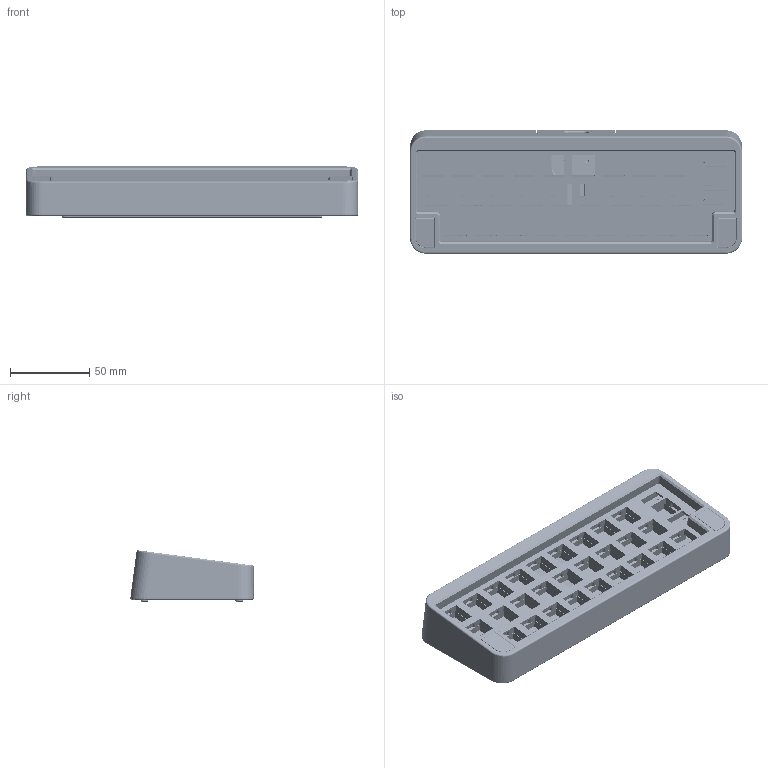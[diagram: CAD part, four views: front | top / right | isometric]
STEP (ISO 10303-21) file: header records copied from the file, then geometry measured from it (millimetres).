
FILE_DESCRIPTION(/* description */ (''),/* implementation_level */ '2;1');
FILE_NAME(/* name */ 'C:/Users/Dari/Documents/qmk/qmk_firmware/keyboards/plip/beta28/production_files/CAD/Assembly.step',/* time_stamp */ '2022-02-20T20:18:13-08:00',/* author */ (''),/* organization */ (''),/* preprocessor_version */ 'ST-DEVELOPER v18.1',/* originating_system */ 'Autodesk Translation Framework v10.13.0.1454',/* authorisation */ '');
FILE_SCHEMA (('AUTOMOTIVE_DESIGN { 1 0 10303 214 3 1 1 }'));
Products named in the file (13): Case Design; Cap; 90358A111_Ultra-Low-Profile Socket Head Screw; Feet; Plate; Clamp; Top Gasket; Bottom Gasket; 91290A015_Black-Oxide Alloy Steel Socket Head Screw; Mute; Foam; Case; Badges
Assembly tree (12 placements, depth 3):
  Case Design
    Cap
      90358A111_Ultra-Low-Profile Socket Head Screw
    Feet
    Plate
    Clamp
      Top Gasket
      Bottom Gasket
      91290A015_Black-Oxide Alloy Steel Socket Head Screw
    Mute
    Foam
    Case
    Badges
Bounding box: 210.03 x 78.02 x 32.41 mm (x, y, z)
Volume: 249753.1 mm3; surface area: 146190.4 mm2
Topology: 25 solids, 25 shells, 2592 faces, 7048 edges, 4546 vertices
Faces by surface type: cylinder 1349, plane 907, cone 150, bspline 150, torus 28, sphere 8
Full cylindrical faces by diameter (mm): 1.48 x72, 1.623 x44, 1.915 x48, 2 x72, 2.074 x24, 2.075 x24, 2.2 x12, 2.5 x48, 2.529 x6, 2.58 x12, 2.7 x4, 3 x1, 3.086 x4, 3.2 x2, 3.5 x1, 3.8 x4, 4 x3, 4.5 x4, 5.7 x2
Entity records: 126973 total; most frequent: CARTESIAN_POINT 62830, ORIENTED_EDGE 14088, DIRECTION 12278, EDGE_CURVE 7044, VERTEX_POINT 4546, AXIS2_PLACEMENT_3D 4281, LINE 3716, VECTOR 3716
